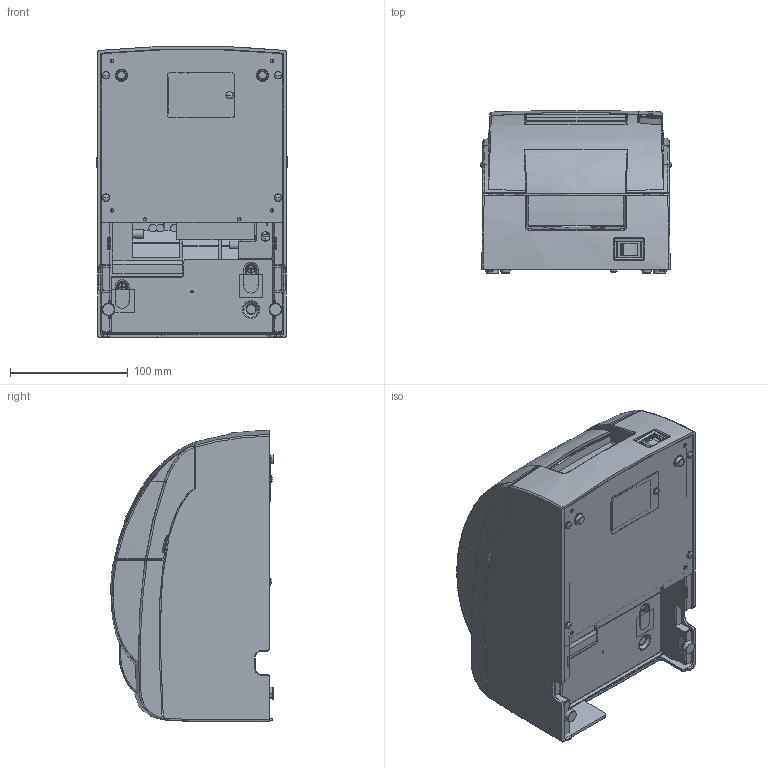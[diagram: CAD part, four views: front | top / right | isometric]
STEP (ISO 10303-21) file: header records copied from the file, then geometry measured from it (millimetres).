
FILE_DESCRIPTION((''),'2;1');
FILE_NAME('TM-U220IIB_CLOSE','2024-12-26T14:04:59',('5012938'),(''),'CREO PARAMETRIC BY PTC INC, 2022281','CREO PARAMETRIC BY PTC INC, 2022281','');
FILE_SCHEMA(('AUTOMOTIVE_DESIGN { 1 0 10303 214 1 1 1 1 }'));
Products named in the file (1): TM-U220IIB_CLOSE
Bounding box: 162.5 x 138.46 x 247.57 mm (x, y, z)
Surface area: 595446.2 mm2 (no closed solid volume)
Topology: 0 solids, 65 shells, 4660 faces, 13500 edges, 8776 vertices
Faces by surface type: plane 2337, cylinder 1497, bspline 432, cone 161, extrusion 112, torus 79, sphere 42
Entity records: 195338 total; most frequent: CARTESIAN_POINT 75523, ORIENTED_EDGE 25667, DIRECTION 23234, EDGE_CURVE 13482, VERTEX_POINT 8776, VECTOR 8280, LINE 8168, AXIS2_PLACEMENT_3D 7477
